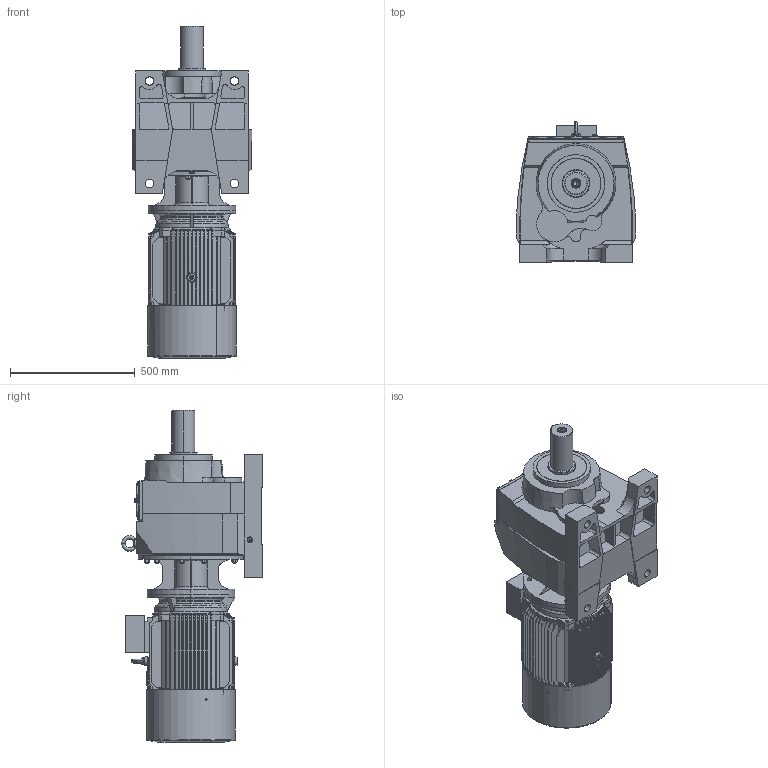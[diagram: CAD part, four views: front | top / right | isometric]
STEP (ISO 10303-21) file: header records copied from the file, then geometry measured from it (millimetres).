
FILE_DESCRIPTION (( 'STEP AP203' ), '1' );
FILE_NAME ('MV772-MV773-M3-180M.STEP', '2019-07-24T09:22:23', ( '' ), ( '' ), 'SwSTEP 2.0', 'SolidWorks 2012', '' );
FILE_SCHEMA (( 'CONFIG_CONTROL_DESIGN' ));
Products named in the file (12): M3-180M-FF-B5; MV772-MV773-M3-180M; Y2-180-4.6.8-ª+---®+_-++ñ; Eyebolts GB_GB_FASTENER_SCREWS_FRS M12_1; Y2-180-4.6.8+ª-¯ª­-È®+_-++ñ; Y2-180MB5+À+¿_-++ñ; MN_77_3_0_A-B18_B5_ML7A_0_0_0_0_0_0_0_0_0_0_0_0_M1; Y2-180+¦i-_-++ñ; Y2-180C++A+¦-¯ª¦+¦_-++ñ; ML7A_Varsayìlan; 73180B5_Varsayìlan; M773_Varsayìlan
Assembly tree (11 placements, depth 3):
  MV772-MV773-M3-180M
    MN_77_3_0_A-B18_B5_ML7A_0_0_0_0_0_0_0_0_0_0_0_0_M1
      M773_Varsayìlan
      73180B5_Varsayìlan
      ML7A_Varsayìlan
    M3-180M-FF-B5
      Y2-180C++A+¦-¯ª¦+¦_-++ñ
      Y2-180+¦i-_-++ñ
      Y2-180-4.6.8-ª+---®+_-++ñ
      Eyebolts GB_GB_FASTENER_SCREWS_FRS M12_1
      Y2-180MB5+À+¿_-++ñ
      Y2-180-4.6.8+ª-¯ª­-È®+_-++ñ
Bounding box: 480 x 563 x 1328.5 mm (x, y, z)
Volume: 86314286.3 mm3; surface area: 4782664.5 mm2
Topology: 10 solids, 10 shells, 2028 faces, 5177 edges, 3286 vertices
Faces by surface type: plane 816, cone 547, cylinder 508, bspline 125, torus 32
Entity records: 75247 total; most frequent: CARTESIAN_POINT 26069, ORIENTED_EDGE 10350, DIRECTION 9683, EDGE_CURVE 5175, AXIS2_PLACEMENT_3D 3704, VERTEX_POINT 3286, LINE 2275, VECTOR 2275
